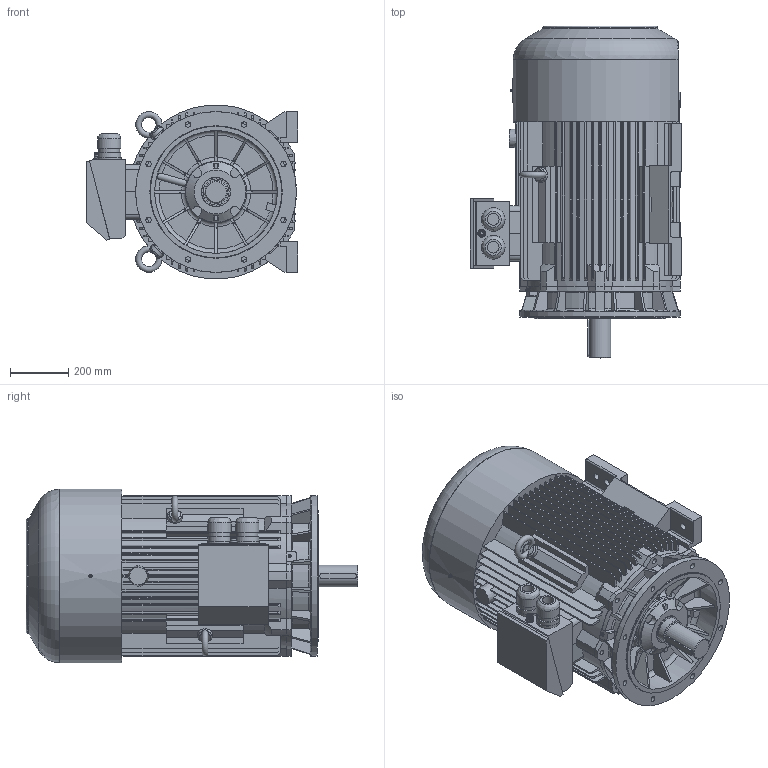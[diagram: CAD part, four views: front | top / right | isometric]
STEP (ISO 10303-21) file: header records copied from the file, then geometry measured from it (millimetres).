
FILE_DESCRIPTION( ( 'Unknown' ), '1' );
FILE_NAME( 'P:/3D_Bry³y silników skatalogowane/SIE/2SIE280/STP_2SIE280/2SIEL280 M_S4_6.stp', 'Unknown', ( 'Unknown' ), ( 'Unknown' ), 'XStep 1.0', 'Unknown', ' ' );
FILE_SCHEMA( ( 'CONFIG_CONTROL_DESIGN' ) );
Length unit declared in the file: millimetre
Products named in the file (4): 1; 2; 3; 4
Bounding box: 724.3 x 1134.98 x 594.39 mm (x, y, z)
Volume: 228624765.5 mm3; surface area: 5561277.3 mm2
Topology: 4 solids, 5 shells, 1128 faces, 3183 edges, 2106 vertices
Faces by surface type: plane 674, cylinder 269, torus 90, cone 72, bspline 23
Full cylindrical faces by diameter (mm): 1.6 x2, 5 x4, 6 x2, 8.36 x1, 8.4 x1, 8.5 x1, 8.917 x1, 10 x4, 10.106 x2, 11.083 x1, 18 x8, 19 x9, 20.752 x4, 21 x1, 23 x1, 24 x6, 27 x1, 40 x2, 50 x2, 71.32 x2, 75 x1, 78.781 x2, 80.024 x2, 81.268 x2, 89.1 x1, 98.8 x1, 100 x1, 160 x1, 208 x1, 210 x1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
Entity records: 47477 total; most frequent: CARTESIAN_POINT 18986, ORIENTED_EDGE 6034, DIRECTION 5633, EDGE_CURVE 3017, VERTEX_POINT 2051, AXIS2_PLACEMENT_3D 1951, LINE 1731, VECTOR 1731
